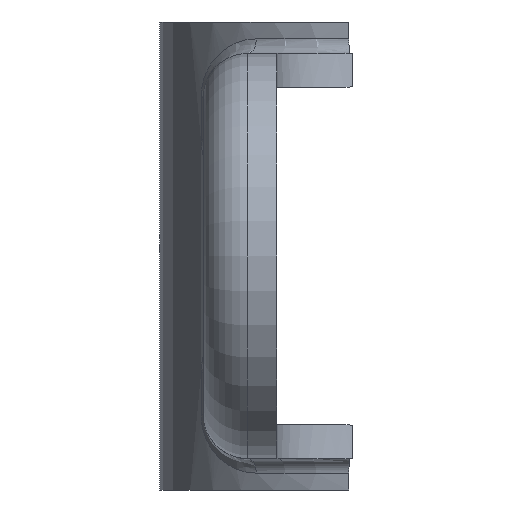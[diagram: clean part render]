
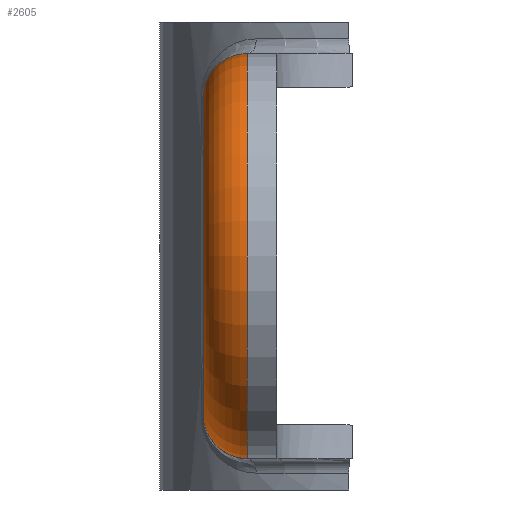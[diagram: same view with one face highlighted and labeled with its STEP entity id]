
A CAD part, left-side view. The second image highlights one B-rep face of the part: STEP entity #2605.
In plain terms, the highlighted toroidal (fillet/blend) face has major radius 10.85 mm and minor radius 3 mm.
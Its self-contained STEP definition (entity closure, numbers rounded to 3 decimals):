
#156 = CIRCLE ( 'NONE', #2726, 3. ) ;
#179 = CARTESIAN_POINT ( 'NONE',  ( -39., 10.8, -10.85 ) ) ;
#222 = ORIENTED_EDGE ( 'NONE', *, *, #1918, .F. ) ;
#637 = CARTESIAN_POINT ( 'NONE',  ( -39., 10.8, 13.85 ) ) ;
#689 = DIRECTION ( 'NONE',  ( 0., 1., 0. ) ) ;
#909 = CIRCLE ( 'NONE', #2222, 13.85 ) ;
#928 = ORIENTED_EDGE ( 'NONE', *, *, #1004, .T. ) ;
#1004 = EDGE_CURVE ( 'NONE', #1298, #2708, #156, .T. ) ;
#1052 = DIRECTION ( 'NONE',  ( 0., 0., -1. ) ) ;
#1111 = EDGE_LOOP ( 'NONE', ( #928, #1296, #1181, #222 ) ) ;
#1181 = ORIENTED_EDGE ( 'NONE', *, *, #2848, .F. ) ;
#1296 = ORIENTED_EDGE ( 'NONE', *, *, #2197, .F. ) ;
#1298 = VERTEX_POINT ( 'NONE', #637 ) ;
#1316 = DIRECTION ( 'NONE',  ( 0., 0., -1. ) ) ;
#1725 = CARTESIAN_POINT ( 'NONE',  ( -39., 10.8, 0. ) ) ;
#1836 = DIRECTION ( 'NONE',  ( 0., 0., -1. ) ) ;
#1910 = DIRECTION ( 'NONE',  ( -1., 0., 0. ) ) ;
#1918 = EDGE_CURVE ( 'NONE', #1298, #3362, #909, .T. ) ;
#1933 = VERTEX_POINT ( 'NONE', #4309 ) ;
#2099 = DIRECTION ( 'NONE',  ( 1., 0., 0. ) ) ;
#2197 = EDGE_CURVE ( 'NONE', #1933, #2708, #3274, .T. ) ;
#2222 = AXIS2_PLACEMENT_3D ( 'NONE', #1725, #3197, #3567 ) ;
#2605 = ADVANCED_FACE ( 'NONE', ( #2857 ), #3604, .T. ) ;
#2606 = AXIS2_PLACEMENT_3D ( 'NONE', #4780, #689, #1052 ) ;
#2644 = CARTESIAN_POINT ( 'NONE',  ( -39., 13.8, 10.85 ) ) ;
#2708 = VERTEX_POINT ( 'NONE', #2644 ) ;
#2726 = AXIS2_PLACEMENT_3D ( 'NONE', #3770, #1910, #4156 ) ;
#2848 = EDGE_CURVE ( 'NONE', #3362, #1933, #4824, .T. ) ;
#2857 = FACE_OUTER_BOUND ( 'NONE', #1111, .T. ) ;
#3197 = DIRECTION ( 'NONE',  ( 0., -1., 0. ) ) ;
#3254 = CARTESIAN_POINT ( 'NONE',  ( -39., 10.8, -13.85 ) ) ;
#3274 = CIRCLE ( 'NONE', #2606, 10.85 ) ;
#3302 = CARTESIAN_POINT ( 'NONE',  ( -39., 10.8, 0. ) ) ;
#3362 = VERTEX_POINT ( 'NONE', #3254 ) ;
#3567 = DIRECTION ( 'NONE',  ( 0., 0., -1. ) ) ;
#3604 = TOROIDAL_SURFACE ( 'NONE', #4681, 10.85, 3. ) ;
#3770 = CARTESIAN_POINT ( 'NONE',  ( -39., 10.8, 10.85 ) ) ;
#4100 = AXIS2_PLACEMENT_3D ( 'NONE', #179, #2099, #1316 ) ;
#4156 = DIRECTION ( 'NONE',  ( 0., 0., 1. ) ) ;
#4309 = CARTESIAN_POINT ( 'NONE',  ( -39., 13.8, -10.85 ) ) ;
#4681 = AXIS2_PLACEMENT_3D ( 'NONE', #3302, #4732, #1836 ) ;
#4732 = DIRECTION ( 'NONE',  ( 0., -1., 0. ) ) ;
#4780 = CARTESIAN_POINT ( 'NONE',  ( -39., 13.8, 0. ) ) ;
#4824 = CIRCLE ( 'NONE', #4100, 3. ) ;
